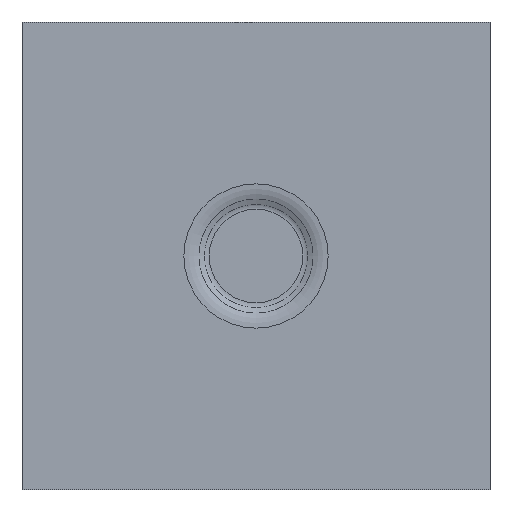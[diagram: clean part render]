
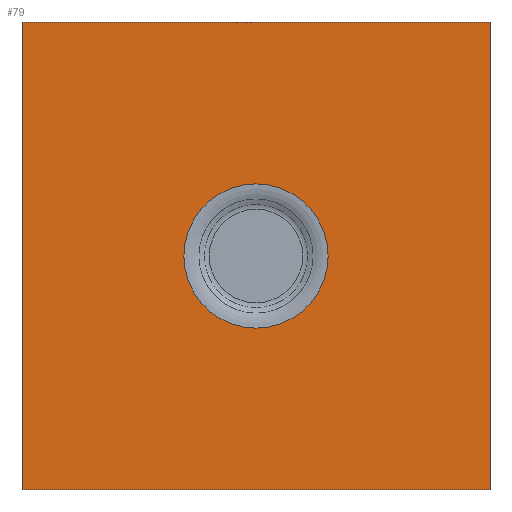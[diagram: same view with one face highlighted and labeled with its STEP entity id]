
A CAD part, top view. The second image highlights one B-rep face of the part: STEP entity #79.
In plain terms, the highlighted planar face has unit normal (0, 0, 1).
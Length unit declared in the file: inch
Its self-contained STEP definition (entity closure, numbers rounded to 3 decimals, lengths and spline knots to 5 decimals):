
#79=ADVANCED_FACE('',(#98,#99),#100,.T.);
#98=FACE_OUTER_BOUND('',#134,.T.);
#99=FACE_BOUND('',#135,.T.);
#100=PLANE('',#136);
#134=EDGE_LOOP('',(#190,#191,#192,#193));
#135=EDGE_LOOP('',(#194));
#136=AXIS2_PLACEMENT_3D('',#195,#196,#197);
#190=ORIENTED_EDGE('',*,*,#252,.T.);
#191=ORIENTED_EDGE('',*,*,#249,.T.);
#192=ORIENTED_EDGE('',*,*,#246,.T.);
#193=ORIENTED_EDGE('',*,*,#255,.T.);
#194=ORIENTED_EDGE('',*,*,#256,.T.);
#195=CARTESIAN_POINT('',(-9.71,1.614,0.0));
#196=DIRECTION('',(0.0,0.0,1.0));
#197=DIRECTION('',(1.0,0.0,0.0));
#246=EDGE_CURVE('',#269,#267,#270,.T.);
#249=EDGE_CURVE('',#274,#269,#275,.T.);
#252=EDGE_CURVE('',#279,#274,#280,.T.);
#255=EDGE_CURVE('',#267,#279,#283,.T.);
#256=EDGE_CURVE('',#284,#284,#285,.T.);
#267=VERTEX_POINT('',#304);
#269=VERTEX_POINT('',#307);
#270=LINE('',#308,#309);
#274=VERTEX_POINT('',#315);
#275=LINE('',#316,#317);
#279=VERTEX_POINT('',#323);
#280=LINE('',#324,#325);
#283=LINE('',#330,#331);
#284=VERTEX_POINT('',#332);
#285=CIRCLE('',#333,0.30849);
#304=CARTESIAN_POINT('',(5.32456,2.24512,0.0));
#307=CARTESIAN_POINT('',(7.32549,2.24512,0.0));
#308=CARTESIAN_POINT('',(-1.71399,2.24512,0.0));
#309=VECTOR('',#350,1.0);
#315=CARTESIAN_POINT('',(7.32549,0.24506,0.0));
#316=CARTESIAN_POINT('',(7.32549,1.41704,0.0));
#317=VECTOR('',#353,1.0);
#323=CARTESIAN_POINT('',(5.32456,0.24506,0.0));
#324=CARTESIAN_POINT('',(-1.71399,0.24506,0.0));
#325=VECTOR('',#356,1.0);
#330=CARTESIAN_POINT('',(5.32456,1.41704,0.0));
#331=VECTOR('',#359,1.0);
#332=CARTESIAN_POINT('',(6.63349,1.245,0.0));
#333=AXIS2_PLACEMENT_3D('',#360,#361,#362);
#350=DIRECTION('',(-1.0,0.0,0.0));
#353=DIRECTION('',(0.0,1.0,0.0));
#356=DIRECTION('',(1.0,0.0,0.0));
#359=DIRECTION('',(0.0,-1.0,0.0));
#360=CARTESIAN_POINT('',(6.325,1.245,0.0));
#361=DIRECTION('',(0.0,0.0,-1.0));
#362=DIRECTION('',(-1.0,0.0,0.0));
